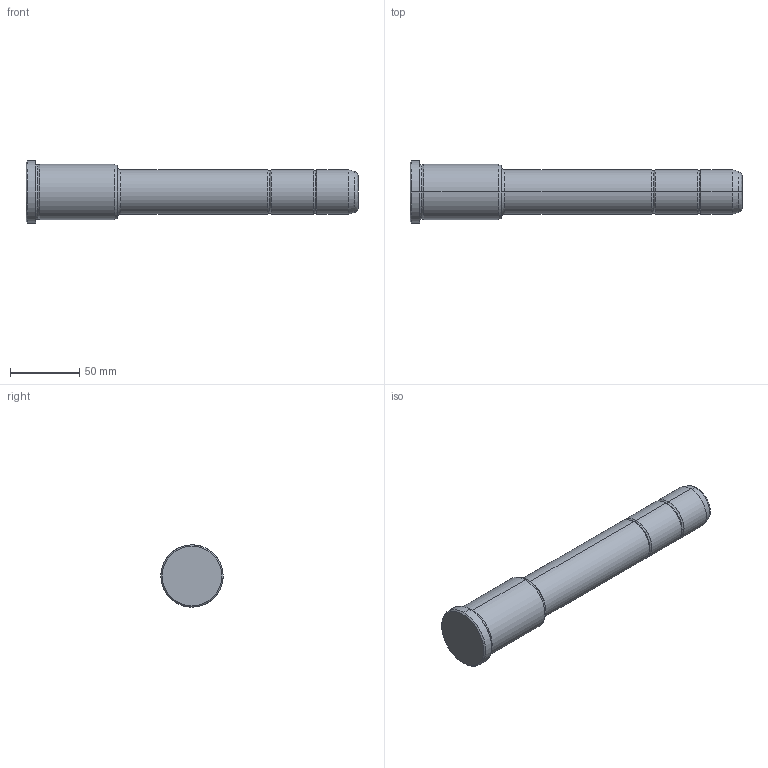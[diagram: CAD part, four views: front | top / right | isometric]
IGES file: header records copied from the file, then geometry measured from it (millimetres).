
Start section: START RECORD GO HERE.
Global section: file name: 351-32X66X240.igs; native system: DASSAULT SYSTEMES CATIA V5 R20 - www.3ds.com; preprocessor: CATIA Version 5 Release 20 ; author: Utente; organization: NB04-ASUS; date: 20210907.142643; units: millimetre
Bounding box: 240 x 45 x 45 mm (x, y, z)
Surface area: 28647.7 mm2 (no closed solid volume)
Topology: 0 solids, 0 shells, 36 faces, 204 edges, 204 vertices
Faces by surface type: revolution 32, plane 4
